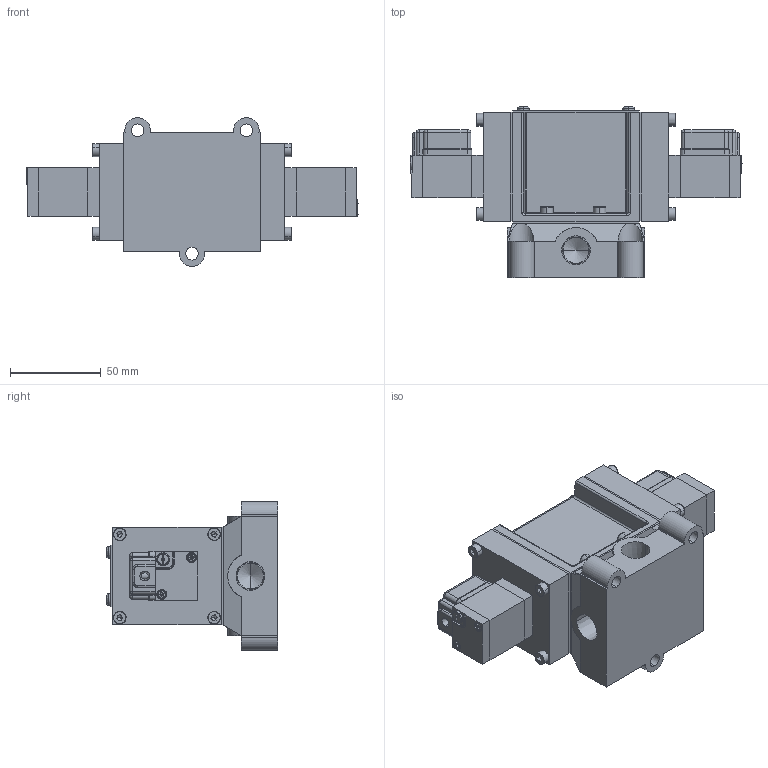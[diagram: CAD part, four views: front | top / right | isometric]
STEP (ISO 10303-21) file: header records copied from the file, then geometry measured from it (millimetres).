
FILE_DESCRIPTION (( 'STEP AP203' ), '1' );
FILE_NAME ('PMD2408#-03-#G#.STEP', '2016-03-09T06:22:19', ( 'Sam Lin' ), ( '' ), 'SwSTEP 2.0', 'SolidWorks 2013', '' );
FILE_SCHEMA (( 'CONFIG_CONTROL_DESIGN' ));
Length unit declared in the file: metre
Products named in the file (16): PM06-C4_1; PM06-C6-M3_1; PMS2408-2; PMS2408-7; PM06-C5_1; PMS2408-3; PMS2408-8; PM06-G1; PMS2408-4; PM08-MARK-2408; PMD2408#-03-#G#; PMS2408-5; PM06-C3-M4_1; PMS2408-1(03); ISO 4762 M4 x 10; PM06-C1_1
Assembly tree (38 placements, depth 2):
  PMD2408#-03-#G#
    PMS2408-2
    PMS2408-3
    PMS2408-4  x2
    PMS2408-5  x2
    PMS2408-7
    PMS2408-8  x2
    PM08-MARK-2408
    PM06-C3-M4_1  x4
    PMS2408-1(03)
    ISO 4762 M4 x 10  x11
    PM06-C1_1  x2
    PM06-C4_1  x2
    PM06-C6-M3_1  x4
    PM06-C5_1  x2
    PM06-G1  x2
Bounding box: 183 x 94.35 x 82 mm (x, y, z)
Volume: 475953.8 mm3; surface area: 124518.3 mm2
Topology: 44 solids, 44 shells, 1085 faces, 2562 edges, 1561 vertices
Faces by surface type: plane 558, cylinder 249, cone 138, bspline 132, torus 8
Entity records: 17642 total; most frequent: CARTESIAN_POINT 4308, DIRECTION 2330, ORIENTED_EDGE 2242, EDGE_CURVE 1121, AXIS2_PLACEMENT_3D 846, VERTEX_POINT 709, VECTOR 638, LINE 638
